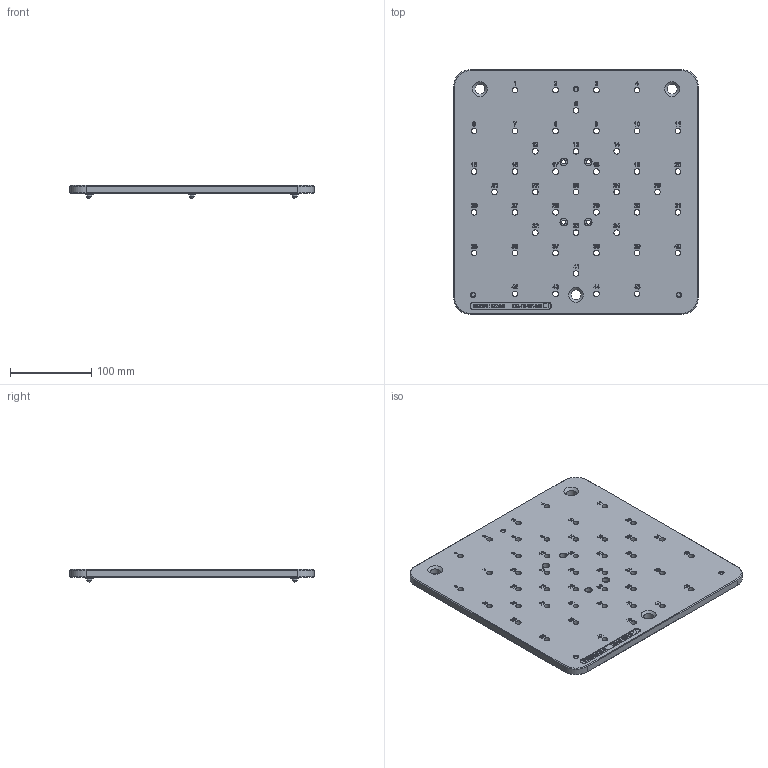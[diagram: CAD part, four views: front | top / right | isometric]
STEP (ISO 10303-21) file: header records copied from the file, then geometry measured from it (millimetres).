
FILE_DESCRIPTION(/* description */ (''),/* implementation_level */ '2;1');
FILE_NAME(/* name */ 'M8 STANDARD KINEMATIC.stp',/* time_stamp */ '2021-02-12T12:06:59+00:00',/* author */ (''),/* organization */ (''),/* preprocessor_version */ 'ST-DEVELOPER v16.7',/* originating_system */ 'SIEMENS PLM Software NX 1942',/* authorisation */ '');
FILE_SCHEMA (('AUTOMOTIVE_DESIGN { 1 0 10303 214 3 1 1 1 }'));
Length unit declared in the file: millimetre
Products named in the file (1): jh1424784273ezoh
Bounding box: 300 x 300 x 16.5 mm (x, y, z)
Volume: 871022.1 mm3; surface area: 200318.8 mm2
Topology: 5 solids, 5 shells, 359 faces, 1304 edges, 1115 vertices
Faces by surface type: plane 190, cylinder 85, cone 81, sphere 3
Full cylindrical faces by diameter (mm): 5.2 x4, 5.5 x3, 5.825 x3, 6 x6, 6.9 x45, 9 x4, 9.5 x3, 10 x2, 12.4 x3
Entity records: 16982 total; most frequent: CARTESIAN_POINT 6642, ORIENTED_EDGE 2278, DIRECTION 1399, EDGE_CURVE 1139, VERTEX_POINT 1104, EDGE_LOOP 778, B_SPLINE_CURVE_WITH_KNOTS 725, AXIS2_PLACEMENT_3D 625
